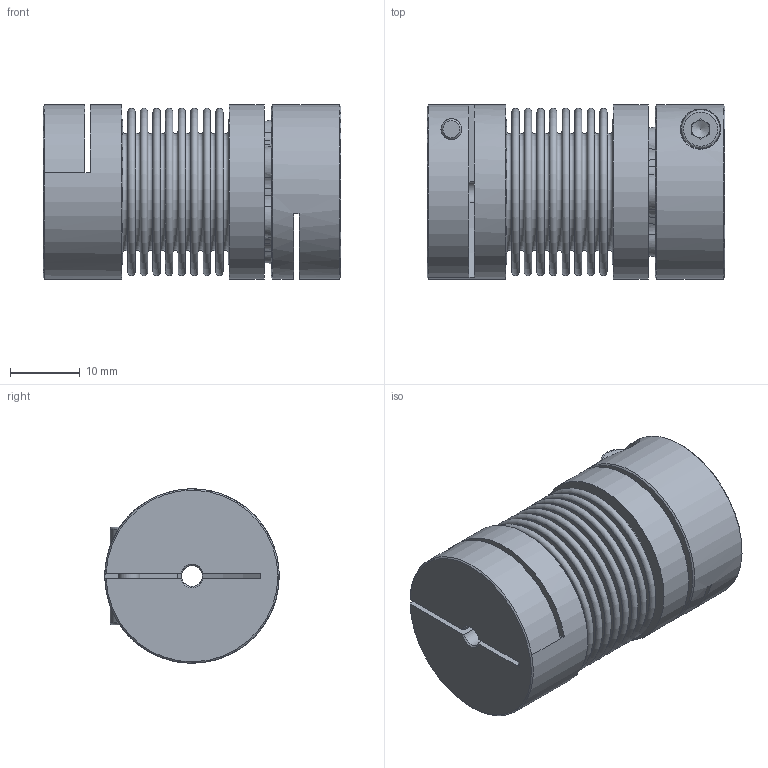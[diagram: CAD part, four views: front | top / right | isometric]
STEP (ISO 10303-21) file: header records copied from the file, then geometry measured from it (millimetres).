
FILE_DESCRIPTION( ( 'KBE1/14 - N7H8 - N14H7 - 98 Sh' ), '1' );
FILE_NAME( 'K:/Konstruktion/Fertigungszeichnungen/Metallbalgkupplung/KB2P/20/KB2P-20-43.stp', '14.12.2015', ( 'KBK-Antriebstechnik' ), ( 'KBK-Antriebstechnik' ), 'PSStep 16.0.42', 'Solid Edge St6', ' ' );
FILE_SCHEMA( ( 'AUTOMOTIVE_DESIGN { 1 0 10303 214 1 1 1 1 }' ) );
Length unit declared in the file: millimetre
Products named in the file (6): Assem1; KN20_Standard_5; Socket Head Cap Screw_DIN_DIN 912 M3 x 10 --- 10N_5; BM20_Standard_0; Stecknabe KB2P-20; Balgaufnahme KB2P-20 für Step
Assembly tree (6 placements, depth 2):
  Assem1
    KN20_Standard_5
    Socket Head Cap Screw_DIN_DIN 912 M3 x 10 --- 10N_5  x2
    BM20_Standard_0
    Stecknabe KB2P-20
    Balgaufnahme KB2P-20 für Step
Bounding box: 42.7 x 25 x 25 mm (x, y, z)
Volume: 13067.4 mm3; surface area: 17356 mm2
Topology: 6 solids, 6 shells, 219 faces, 488 edges, 318 vertices
Faces by surface type: plane 91, cone 60, torus 43, cylinder 25
Full cylindrical faces by diameter (mm): 2.459 x1, 3 x5, 3.2 x2, 5.5 x2, 21 x2, 21.3 x2, 25 x3
Entity records: 7175 total; most frequent: CARTESIAN_POINT 1118, DIRECTION 997, ORIENTED_EDGE 736, AXIS2_PLACEMENT_3D 442, EDGE_CURVE 368, EDGE_LOOP 314, VERTEX_POINT 295, FACE_OUTER_BOUND 253
